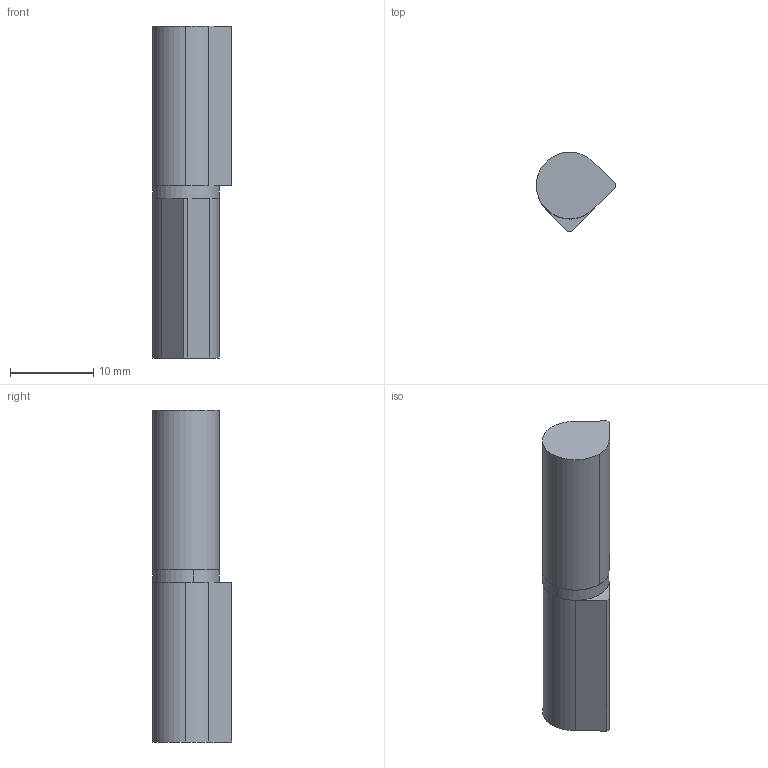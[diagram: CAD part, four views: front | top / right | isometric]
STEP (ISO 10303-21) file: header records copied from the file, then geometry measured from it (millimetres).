
FILE_DESCRIPTION (( 'STEP AP214' ), '1' );
FILE_NAME ('3.ST7-2.001.STEP', '2016-09-09T09:30:39', ( '' ), ( '' ), 'SwSTEP 2.0', 'SolidWorks 2015', '' );
FILE_SCHEMA (( 'AUTOMOTIVE_DESIGN' ));
Length unit declared in the file: millimetre
Products named in the file (4): 3.ST7-1.001.02_A; 3.ST7-2.001.01_A; 3.ST7-2.001; 3.ST7-1.001.03_A
Assembly tree (4 placements, depth 2):
  3.ST7-2.001
    3.ST7-2.001.01_A  x2
    3.ST7-1.001.02_A
    3.ST7-1.001.03_A
Bounding box: 9.5 x 9.5 x 39.9 mm (x, y, z)
Volume: 2042.7 mm3; surface area: 2203.8 mm2
Topology: 4 solids, 4 shells, 74 faces, 156 edges, 98 vertices
Faces by surface type: plane 34, cylinder 28, cone 12
Entity records: 1768 total; most frequent: DIRECTION 328, CARTESIAN_POINT 268, ORIENTED_EDGE 244, AXIS2_PLACEMENT_3D 139, EDGE_CURVE 122, VERTEX_POINT 79, EDGE_LOOP 73, CIRCLE 72
